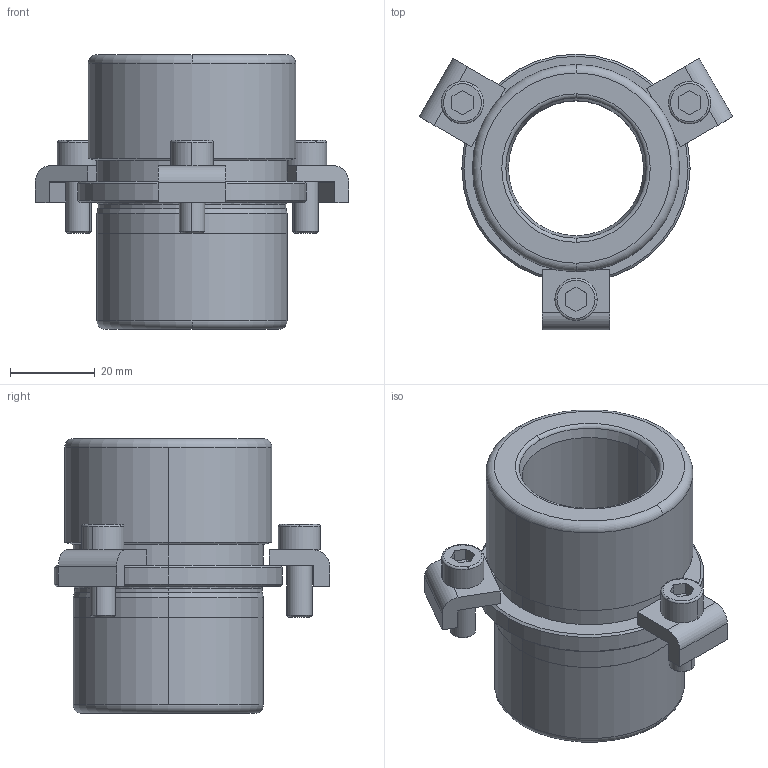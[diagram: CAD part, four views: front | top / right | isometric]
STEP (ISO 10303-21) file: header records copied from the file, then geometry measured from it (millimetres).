
FILE_DESCRIPTION((''),'2;1');
FILE_NAME('B40_024_035.stp','2009-01-05T16:01:22',(''),(''),'Mechanical Desktop 2009','Mechanical Desktop 2009',', , ');
FILE_SCHEMA(('CONFIG_CONTROL_DESIGN'));
Length unit declared in the file: millimetre
Products named in the file (2): Product; blmdl1
Assembly tree (1 placements, depth 2):
  Product
    blmdl1
Bounding box: 74.11 x 65.2 x 65 mm (x, y, z)
Volume: 66653 mm3; surface area: 23731.6 mm2
Topology: 7 solids, 7 shells, 141 faces, 362 edges, 238 vertices
Faces by surface type: plane 59, cylinder 38, cone 20, torus 14, bspline 10
Entity records: 4891 total; most frequent: CARTESIAN_POINT 1231, DIRECTION 794, ORIENTED_EDGE 724, EDGE_CURVE 362, AXIS2_PLACEMENT_3D 311, VERTEX_POINT 238, CIRCLE 178, VECTOR 172
